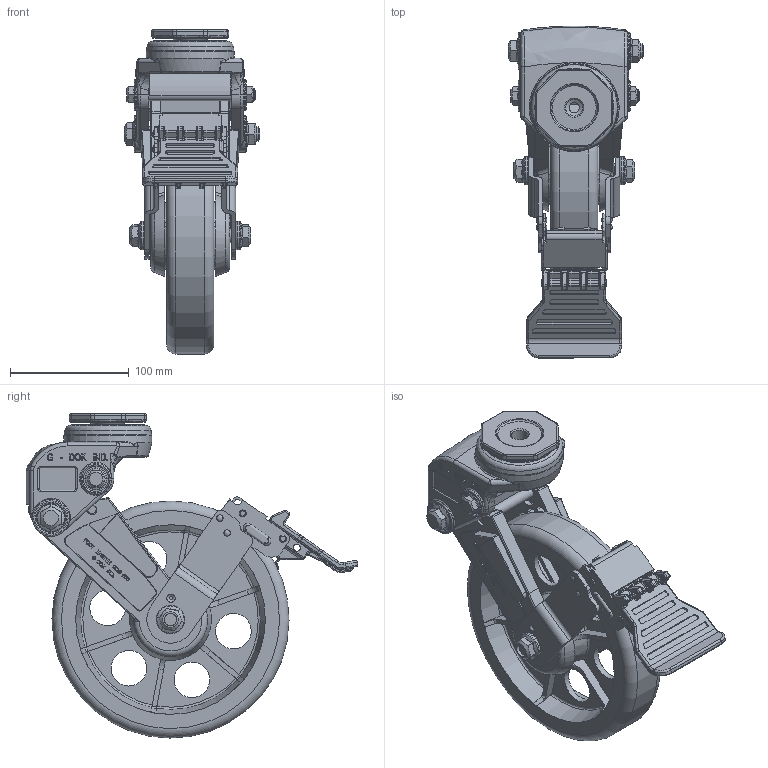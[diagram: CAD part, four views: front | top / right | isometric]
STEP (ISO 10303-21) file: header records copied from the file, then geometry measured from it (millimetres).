
FILE_DESCRIPTION((''),'2;1');
FILE_NAME('C:\Documents and Settings\Administrator\바탕 화면\3D STEP\GDS-SERIES\GDS-200\GDS-200B-SS.stp','2010-12-27T13:54:23',('Administrator'),(''),'Autodesk Inventor 2009','Autodesk Inventor 2009','');
FILE_SCHEMA(('AUTOMOTIVE_DESIGN { 1 0 10303 214 1 1 1 1 }'));
Length unit declared in the file: millimetre
Products named in the file (1): GDS-200B-SS
Bounding box: 114.5 x 279.91 x 273.46 mm (x, y, z)
Volume: 1316377.2 mm3; surface area: 328721.7 mm2
Topology: 13 solids, 13 shells, 3756 faces, 10055 edges, 6414 vertices
Faces by surface type: bspline 1397, plane 1201, cylinder 831, torus 158, cone 109, sphere 60
Full cylindrical faces by diameter (mm): 3 x3, 4 x6, 4.1 x3, 4.2 x7, 4.8 x2, 6 x2, 7.5 x2, 8 x4, 8.5 x1, 10 x4, 10.7 x2, 12 x4, 12.1 x2, 12.2 x2, 14.21 x1, 15 x4, 15.1 x2, 18 x1, 18.6 x2, 18.9 x1, 20 x1, 20.4 x2, 21.667 x4, 24 x4, 26 x2, 27 x2, 28.333 x4, 29 x1, 30 x7, 30.6 x1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
Entity records: 146662 total; most frequent: CARTESIAN_POINT 62768, ORIENTED_EDGE 19328, DIRECTION 14005, EDGE_CURVE 9664, VERTEX_POINT 6322, AXIS2_PLACEMENT_3D 4844, VECTOR 4317, LINE 4317
